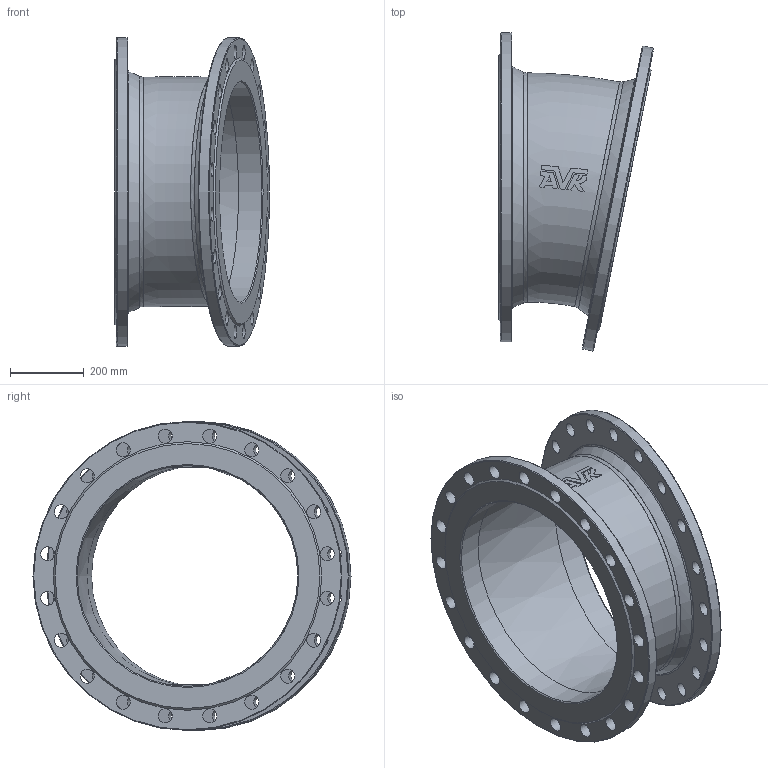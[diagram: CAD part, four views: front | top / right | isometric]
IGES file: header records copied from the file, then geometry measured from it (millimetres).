
Start section: SolidWorks IGES file using analytic representation for surfaces
Global section: file name: \\avksan2\techshare\PBM outline export from Enovia\O_712_0110_DN600_1X_REV01.igs; native system: SolidWorks 2022; preprocessor: SolidWorks 2022; author: pbm; date: 240815.111408; units: millimetre
Bounding box: 421.3 x 864.51 x 840 mm (x, y, z)
Surface area: 2397069.2 mm2 (no closed solid volume)
Topology: 0 solids, 0 shells, 107 faces, 540 edges, 480 vertices
Faces by surface type: revolution 64, bspline 43
